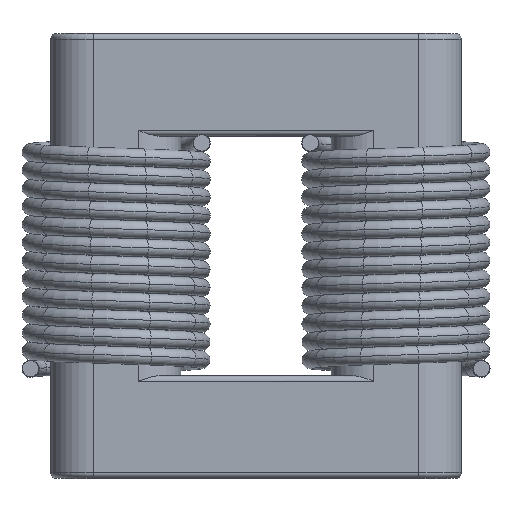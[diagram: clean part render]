
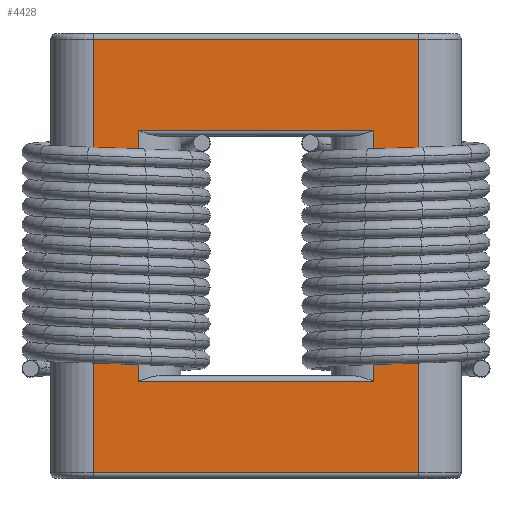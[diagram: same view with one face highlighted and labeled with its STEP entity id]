
A CAD part, top view. The second image highlights one B-rep face of the part: STEP entity #4428.
In plain terms, the highlighted planar face has unit normal (0, 0, 1).
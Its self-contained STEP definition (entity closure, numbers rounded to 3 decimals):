
#316 = CARTESIAN_POINT ( 'NONE',  ( 7.84, 11.758, 26.85 ) ) ;
#1099 = DIRECTION ( 'NONE',  ( 1., 0., 0. ) ) ;
#1184 = VERTEX_POINT ( 'NONE', #1825 ) ;
#1295 = VECTOR ( 'NONE', #13161, 1000. ) ;
#1296 = EDGE_CURVE ( 'NONE', #19320, #28527, #3349, .T. ) ;
#1342 = CARTESIAN_POINT ( 'NONE',  ( -6.91, 6.658, 26.85 ) ) ;
#1825 = CARTESIAN_POINT ( 'NONE',  ( 7.84, 11.458, 26.85 ) ) ;
#1984 = VECTOR ( 'NONE', #8298, 1000. ) ;
#3349 = LINE ( 'NONE', #9646, #27640 ) ;
#3670 = VERTEX_POINT ( 'NONE', #16617 ) ;
#4428 = ADVANCED_FACE ( 'NONE', ( #9263, #16235 ), #10587, .T. ) ;
#4812 = ORIENTED_EDGE ( 'NONE', *, *, #1296, .T. ) ;
#5085 = EDGE_CURVE ( 'NONE', #3670, #19320, #24832, .T. ) ;
#5543 = CARTESIAN_POINT ( 'NONE',  ( -9.26, -11.642, 26.85 ) ) ;
#7586 = CARTESIAN_POINT ( 'NONE',  ( 5.49, 0.058, 26.85 ) ) ;
#7958 = CARTESIAN_POINT ( 'NONE',  ( -9.26, -11.342, 26.85 ) ) ;
#7970 = CARTESIAN_POINT ( 'NONE',  ( 5.49, 6.658, 26.85 ) ) ;
#8298 = DIRECTION ( 'NONE',  ( -1., 0., 0. ) ) ;
#8450 = ORIENTED_EDGE ( 'NONE', *, *, #22593, .T. ) ;
#8579 = LINE ( 'NONE', #7586, #25890 ) ;
#8928 = LINE ( 'NONE', #21575, #1984 ) ;
#9263 = FACE_BOUND ( 'NONE', #19982, .T. ) ;
#9646 = CARTESIAN_POINT ( 'NONE',  ( 7.84, -11.342, 26.85 ) ) ;
#10228 = CARTESIAN_POINT ( 'NONE',  ( -6.91, -6.542, 26.85 ) ) ;
#10238 = LINE ( 'NONE', #316, #14064 ) ;
#10241 = CARTESIAN_POINT ( 'NONE',  ( 7.84, -11.342, 26.85 ) ) ;
#10473 = VERTEX_POINT ( 'NONE', #1342 ) ;
#10587 = PLANE ( 'NONE',  #13781 ) ;
#10836 = CARTESIAN_POINT ( 'NONE',  ( -9.26, 11.458, 26.85 ) ) ;
#11260 = CARTESIAN_POINT ( 'NONE',  ( -0.71, 0.058, 26.85 ) ) ;
#11356 = DIRECTION ( 'NONE',  ( 1., 0., 0. ) ) ;
#11924 = CARTESIAN_POINT ( 'NONE',  ( 5.49, -6.542, 26.85 ) ) ;
#12432 = LINE ( 'NONE', #10836, #1295 ) ;
#13032 = VERTEX_POINT ( 'NONE', #11924 ) ;
#13161 = DIRECTION ( 'NONE',  ( -1., 0., 0. ) ) ;
#13781 = AXIS2_PLACEMENT_3D ( 'NONE', #11260, #26802, #11356 ) ;
#14064 = VECTOR ( 'NONE', #26579, 1000. ) ;
#14316 = EDGE_CURVE ( 'NONE', #28527, #1184, #10238, .T. ) ;
#14633 = VERTEX_POINT ( 'NONE', #7970 ) ;
#14662 = CARTESIAN_POINT ( 'NONE',  ( -6.91, 0.058, 26.85 ) ) ;
#14779 = EDGE_LOOP ( 'NONE', ( #19927, #26816, #21246, #4812 ) ) ;
#14956 = ORIENTED_EDGE ( 'NONE', *, *, #20752, .T. ) ;
#16235 = FACE_OUTER_BOUND ( 'NONE', #14779, .T. ) ;
#16617 = CARTESIAN_POINT ( 'NONE',  ( -9.26, 11.458, 26.85 ) ) ;
#17768 = EDGE_CURVE ( 'NONE', #13032, #24621, #8928, .T. ) ;
#17921 = EDGE_CURVE ( 'NONE', #1184, #3670, #12432, .T. ) ;
#17945 = VECTOR ( 'NONE', #23436, 1000. ) ;
#18610 = VECTOR ( 'NONE', #26423, 1000. ) ;
#19137 = ORIENTED_EDGE ( 'NONE', *, *, #17768, .T. ) ;
#19320 = VERTEX_POINT ( 'NONE', #7958 ) ;
#19911 = CARTESIAN_POINT ( 'NONE',  ( -0.71, 6.658, 26.85 ) ) ;
#19927 = ORIENTED_EDGE ( 'NONE', *, *, #14316, .T. ) ;
#19982 = EDGE_LOOP ( 'NONE', ( #8450, #26399, #14956, #19137 ) ) ;
#20319 = VECTOR ( 'NONE', #25422, 1000. ) ;
#20752 = EDGE_CURVE ( 'NONE', #14633, #13032, #8579, .T. ) ;
#21246 = ORIENTED_EDGE ( 'NONE', *, *, #5085, .T. ) ;
#21575 = CARTESIAN_POINT ( 'NONE',  ( -0.71, -6.542, 26.85 ) ) ;
#22593 = EDGE_CURVE ( 'NONE', #24621, #10473, #23848, .T. ) ;
#23436 = DIRECTION ( 'NONE',  ( 0., 1., 0. ) ) ;
#23848 = LINE ( 'NONE', #14662, #17945 ) ;
#24516 = LINE ( 'NONE', #19911, #18610 ) ;
#24621 = VERTEX_POINT ( 'NONE', #10228 ) ;
#24832 = LINE ( 'NONE', #5543, #20319 ) ;
#25422 = DIRECTION ( 'NONE',  ( 0., -1., 0. ) ) ;
#25651 = EDGE_CURVE ( 'NONE', #10473, #14633, #24516, .T. ) ;
#25890 = VECTOR ( 'NONE', #27716, 1000. ) ;
#26399 = ORIENTED_EDGE ( 'NONE', *, *, #25651, .T. ) ;
#26423 = DIRECTION ( 'NONE',  ( 1., 0., 0. ) ) ;
#26579 = DIRECTION ( 'NONE',  ( 0., 1., 0. ) ) ;
#26802 = DIRECTION ( 'NONE',  ( 0., 0., 1. ) ) ;
#26816 = ORIENTED_EDGE ( 'NONE', *, *, #17921, .T. ) ;
#27640 = VECTOR ( 'NONE', #1099, 1000. ) ;
#27716 = DIRECTION ( 'NONE',  ( 0., -1., 0. ) ) ;
#28527 = VERTEX_POINT ( 'NONE', #10241 ) ;
